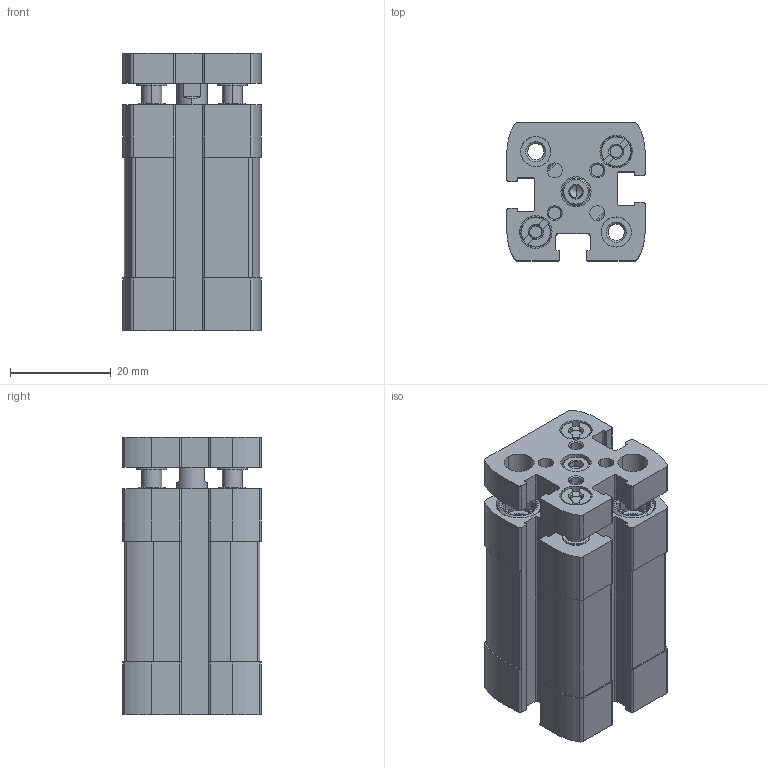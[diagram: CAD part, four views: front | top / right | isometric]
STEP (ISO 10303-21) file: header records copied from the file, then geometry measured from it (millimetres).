
FILE_DESCRIPTION (( 'STEP AP203' ), '1' );
FILE_NAME ('CCNG12-10.STEP', '2017-04-13T13:58:45', ( '' ), ( '' ), 'SwSTEP 2.0', 'SolidWorks 2016', '' );
FILE_SCHEMA (( 'CONFIG_CONTROL_DESIGN' ));
Length unit declared in the file: millimetre
Products named in the file (3): CCNG12-10--(KS); CCNG12-10; CCNG12-10---(Z)
Assembly tree (2 placements, depth 2):
  CCNG12-10
    CCNG12-10---(Z)
    CCNG12-10--(KS)
Bounding box: 27.5 x 27.5 x 55.2 mm (x, y, z)
Volume: 28442.8 mm3; surface area: 17035.3 mm2
Topology: 2 solids, 6 shells, 538 faces, 1400 edges, 915 vertices
Faces by surface type: plane 252, cylinder 212, cone 70, bspline 4
Entity records: 17103 total; most frequent: CARTESIAN_POINT 3332, DIRECTION 2868, ORIENTED_EDGE 2796, EDGE_CURVE 1398, AXIS2_PLACEMENT_3D 1063, VERTEX_POINT 915, VECTOR 742, LINE 742
